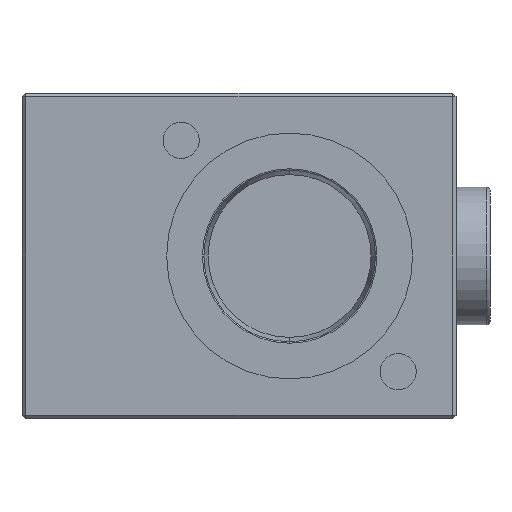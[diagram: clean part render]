
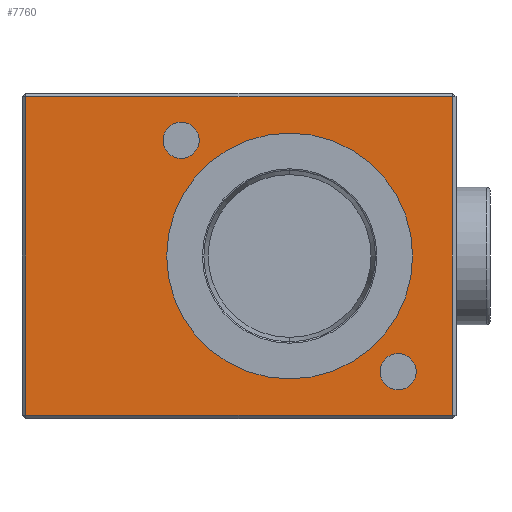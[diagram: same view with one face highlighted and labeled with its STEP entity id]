
A CAD part, left-side view. The second image highlights one B-rep face of the part: STEP entity #7760.
In plain terms, the highlighted planar face has unit normal (-1, 0, 0).
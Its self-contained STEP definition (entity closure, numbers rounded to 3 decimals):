
#15 = DIRECTION ( 'NONE',  ( 0., 1., 0. ) ) ;
#291 = DIRECTION ( 'NONE',  ( 0., 0., 1. ) ) ;
#306 = CARTESIAN_POINT ( 'NONE',  ( 0., -29.5, 22.5 ) ) ;
#322 = CARTESIAN_POINT ( 'NONE',  ( 0., 30., 22. ) ) ;
#435 = CIRCLE ( 'NONE', #9946, 2.5 ) ;
#929 = EDGE_CURVE ( 'NONE', #7116, #11563, #6271, .T. ) ;
#1225 = DIRECTION ( 'NONE',  ( 0., 0., 1. ) ) ;
#1239 = CARTESIAN_POINT ( 'NONE',  ( 0., 8., 16. ) ) ;
#1299 = DIRECTION ( 'NONE',  ( -1., 0., 0. ) ) ;
#1377 = FACE_BOUND ( 'NONE', #7580, .T. ) ;
#1754 = CIRCLE ( 'NONE', #8697, 17. ) ;
#1868 = CARTESIAN_POINT ( 'NONE',  ( 0., -29.5, -22. ) ) ;
#1917 = CIRCLE ( 'NONE', #7203, 2.5 ) ;
#2100 = CARTESIAN_POINT ( 'NONE',  ( 0., 29.5, -22. ) ) ;
#2115 = ORIENTED_EDGE ( 'NONE', *, *, #8556, .F. ) ;
#2319 = DIRECTION ( 'NONE',  ( 0., 0., 1. ) ) ;
#2423 = DIRECTION ( 'NONE',  ( 0., 0., 1. ) ) ;
#2621 = FACE_OUTER_BOUND ( 'NONE', #4085, .T. ) ;
#2698 = VERTEX_POINT ( 'NONE', #11425 ) ;
#2771 = VECTOR ( 'NONE', #5808, 1000. ) ;
#2794 = CARTESIAN_POINT ( 'NONE',  ( 0., 30., -22.5 ) ) ;
#2803 = LINE ( 'NONE', #5584, #2771 ) ;
#2845 = AXIS2_PLACEMENT_3D ( 'NONE', #3628, #3601, #3599 ) ;
#2850 = DIRECTION ( 'NONE',  ( -1., 0., 0. ) ) ;
#3285 = PLANE ( 'NONE',  #7435 ) ;
#3288 = EDGE_LOOP ( 'NONE', ( #7131, #5771 ) ) ;
#3486 = ORIENTED_EDGE ( 'NONE', *, *, #7397, .T. ) ;
#3489 = VECTOR ( 'NONE', #10241, 1000. ) ;
#3515 = LINE ( 'NONE', #10303, #3489 ) ;
#3590 = CARTESIAN_POINT ( 'NONE',  ( 0., -7., -17. ) ) ;
#3599 = DIRECTION ( 'NONE',  ( 0., 0., 1. ) ) ;
#3601 = DIRECTION ( 'NONE',  ( -1., 0., 0. ) ) ;
#3628 = CARTESIAN_POINT ( 'NONE',  ( 0., -22., -16. ) ) ;
#4000 = ORIENTED_EDGE ( 'NONE', *, *, #7577, .T. ) ;
#4085 = EDGE_LOOP ( 'NONE', ( #3486, #4000, #7200, #4142 ) ) ;
#4142 = ORIENTED_EDGE ( 'NONE', *, *, #7722, .T. ) ;
#4625 = EDGE_LOOP ( 'NONE', ( #5504, #12348 ) ) ;
#5000 = CARTESIAN_POINT ( 'NONE',  ( 0., 29.5, 22. ) ) ;
#5074 = VERTEX_POINT ( 'NONE', #9782 ) ;
#5104 = VERTEX_POINT ( 'NONE', #8761 ) ;
#5504 = ORIENTED_EDGE ( 'NONE', *, *, #7793, .F. ) ;
#5584 = CARTESIAN_POINT ( 'NONE',  ( 0., -30., -22. ) ) ;
#5737 = VERTEX_POINT ( 'NONE', #2100 ) ;
#5771 = ORIENTED_EDGE ( 'NONE', *, *, #929, .F. ) ;
#5808 = DIRECTION ( 'NONE',  ( 0., -1., 0. ) ) ;
#5809 = VERTEX_POINT ( 'NONE', #1868 ) ;
#6271 = CIRCLE ( 'NONE', #6319, 17. ) ;
#6319 = AXIS2_PLACEMENT_3D ( 'NONE', #8833, #8802, #8797 ) ;
#6403 = ORIENTED_EDGE ( 'NONE', *, *, #7764, .F. ) ;
#6571 = FACE_BOUND ( 'NONE', #3288, .T. ) ;
#7116 = VERTEX_POINT ( 'NONE', #3590 ) ;
#7131 = ORIENTED_EDGE ( 'NONE', *, *, #7853, .F. ) ;
#7200 = ORIENTED_EDGE ( 'NONE', *, *, #7660, .T. ) ;
#7203 = AXIS2_PLACEMENT_3D ( 'NONE', #1239, #1299, #1225 ) ;
#7252 = CIRCLE ( 'NONE', #2845, 2.5 ) ;
#7394 = DIRECTION ( 'NONE',  ( 0., 0., 1. ) ) ;
#7397 = EDGE_CURVE ( 'NONE', #5809, #5074, #14144, .T. ) ;
#7411 = DIRECTION ( 'NONE',  ( -1., 0., 0. ) ) ;
#7430 = CARTESIAN_POINT ( 'NONE',  ( 0., 8., 16. ) ) ;
#7435 = AXIS2_PLACEMENT_3D ( 'NONE', #2794, #2850, #2423 ) ;
#7577 = EDGE_CURVE ( 'NONE', #5074, #9088, #12204, .T. ) ;
#7580 = EDGE_LOOP ( 'NONE', ( #6403, #2115 ) ) ;
#7601 = CARTESIAN_POINT ( 'NONE',  ( 0., 8., 18.5 ) ) ;
#7660 = EDGE_CURVE ( 'NONE', #9088, #5737, #3515, .T. ) ;
#7722 = EDGE_CURVE ( 'NONE', #5737, #5809, #2803, .T. ) ;
#7760 = ADVANCED_FACE ( 'NONE', ( #2621, #1377, #11055, #6571 ), #3285, .T. ) ;
#7764 = EDGE_CURVE ( 'NONE', #8561, #2698, #1917, .T. ) ;
#7793 = EDGE_CURVE ( 'NONE', #5104, #10104, #13842, .T. ) ;
#7853 = EDGE_CURVE ( 'NONE', #11563, #7116, #1754, .T. ) ;
#8556 = EDGE_CURVE ( 'NONE', #2698, #8561, #435, .T. ) ;
#8561 = VERTEX_POINT ( 'NONE', #7601 ) ;
#8697 = AXIS2_PLACEMENT_3D ( 'NONE', #13720, #13706, #2319 ) ;
#8761 = CARTESIAN_POINT ( 'NONE',  ( 0., -22., -13.5 ) ) ;
#8797 = DIRECTION ( 'NONE',  ( 0., 0., 1. ) ) ;
#8802 = DIRECTION ( 'NONE',  ( -1., 0., 0. ) ) ;
#8833 = CARTESIAN_POINT ( 'NONE',  ( 0., -7., 0. ) ) ;
#8948 = AXIS2_PLACEMENT_3D ( 'NONE', #13862, #13845, #13831 ) ;
#9088 = VERTEX_POINT ( 'NONE', #5000 ) ;
#9556 = VECTOR ( 'NONE', #291, 1000. ) ;
#9782 = CARTESIAN_POINT ( 'NONE',  ( 0., -29.5, 22. ) ) ;
#9946 = AXIS2_PLACEMENT_3D ( 'NONE', #7430, #7411, #7394 ) ;
#10104 = VERTEX_POINT ( 'NONE', #14171 ) ;
#10241 = DIRECTION ( 'NONE',  ( 0., 0., -1. ) ) ;
#10303 = CARTESIAN_POINT ( 'NONE',  ( 0., 29.5, -22.5 ) ) ;
#11055 = FACE_BOUND ( 'NONE', #4625, .T. ) ;
#11425 = CARTESIAN_POINT ( 'NONE',  ( 0., 8., 13.5 ) ) ;
#11563 = VERTEX_POINT ( 'NONE', #12855 ) ;
#12204 = LINE ( 'NONE', #322, #12207 ) ;
#12207 = VECTOR ( 'NONE', #15, 1000. ) ;
#12348 = ORIENTED_EDGE ( 'NONE', *, *, #12581, .F. ) ;
#12581 = EDGE_CURVE ( 'NONE', #10104, #5104, #7252, .T. ) ;
#12855 = CARTESIAN_POINT ( 'NONE',  ( 0., -7., 17. ) ) ;
#13706 = DIRECTION ( 'NONE',  ( -1., 0., 0. ) ) ;
#13720 = CARTESIAN_POINT ( 'NONE',  ( 0., -7., 0. ) ) ;
#13831 = DIRECTION ( 'NONE',  ( 0., 0., 1. ) ) ;
#13842 = CIRCLE ( 'NONE', #8948, 2.5 ) ;
#13845 = DIRECTION ( 'NONE',  ( -1., 0., 0. ) ) ;
#13862 = CARTESIAN_POINT ( 'NONE',  ( 0., -22., -16. ) ) ;
#14144 = LINE ( 'NONE', #306, #9556 ) ;
#14171 = CARTESIAN_POINT ( 'NONE',  ( 0., -22., -18.5 ) ) ;
